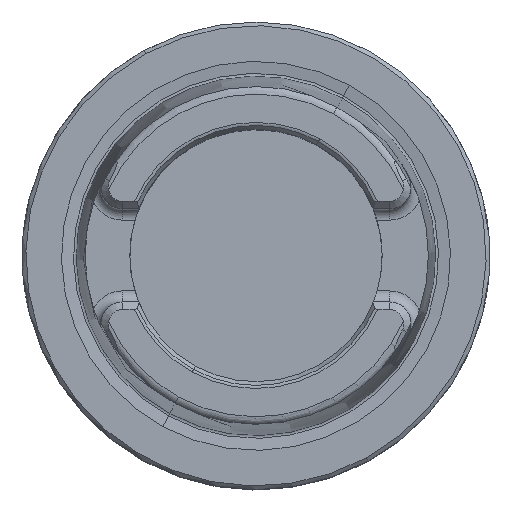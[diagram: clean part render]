
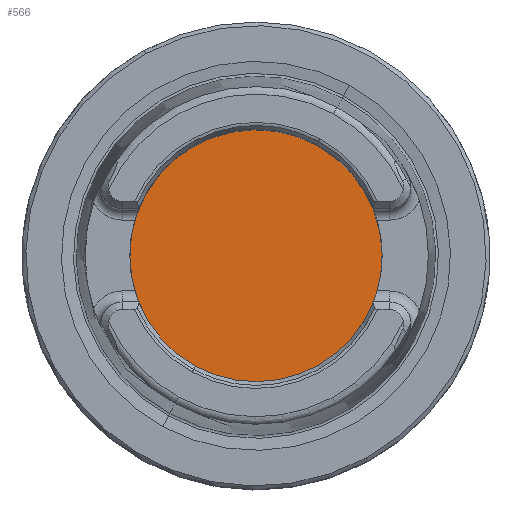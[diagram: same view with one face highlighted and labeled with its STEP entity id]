
A CAD part, top view. The second image highlights one B-rep face of the part: STEP entity #566.
In plain terms, the highlighted planar face has unit normal (0, 0, 1).
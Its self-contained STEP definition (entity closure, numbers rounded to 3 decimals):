
#298=AXIS2_PLACEMENT_3D('Circle Axis2P3D',#296,#297,$) ;
#555=AXIS2_PLACEMENT_3D('Plane Axis2P3D',#552,#553,#554) ;
#559=AXIS2_PLACEMENT_3D('Circle Axis2P3D',#557,#558,$) ;
#296=CARTESIAN_POINT('Axis2P3D Location',(0.,0.,-10.)) ;
#300=CARTESIAN_POINT('Vertex',(-8.15,-14.919,-10.)) ;
#302=CARTESIAN_POINT('Vertex',(8.15,14.919,-10.)) ;
#552=CARTESIAN_POINT('Axis2P3D Location',(0.,-15.75,-10.)) ;
#557=CARTESIAN_POINT('Axis2P3D Location',(0.,0.,-10.)) ;
#297=DIRECTION('Axis2P3D Direction',(0.,0.,-1.)) ;
#553=DIRECTION('Axis2P3D Direction',(0.,0.,-1.)) ;
#554=DIRECTION('Axis2P3D XDirection',(-1.,0.,0.)) ;
#558=DIRECTION('Axis2P3D Direction',(0.,0.,-1.)) ;
#563=ORIENTED_EDGE('',*,*,#561,.T.) ;
#564=ORIENTED_EDGE('',*,*,#304,.T.) ;
#566=ADVANCED_FACE('NO_CUT',(#565),#556,.F.) ;
#299=CIRCLE('generated circle',#298,17.) ;
#560=CIRCLE('generated circle',#559,17.) ;
#304=EDGE_CURVE('',#301,#303,#299,.F.) ;
#561=EDGE_CURVE('',#303,#301,#560,.F.) ;
#562=EDGE_LOOP('',(#563,#564)) ;
#565=FACE_OUTER_BOUND('',#562,.T.) ;
#556=PLANE('',#555) ;
#301=VERTEX_POINT('',#300) ;
#303=VERTEX_POINT('',#302) ;
